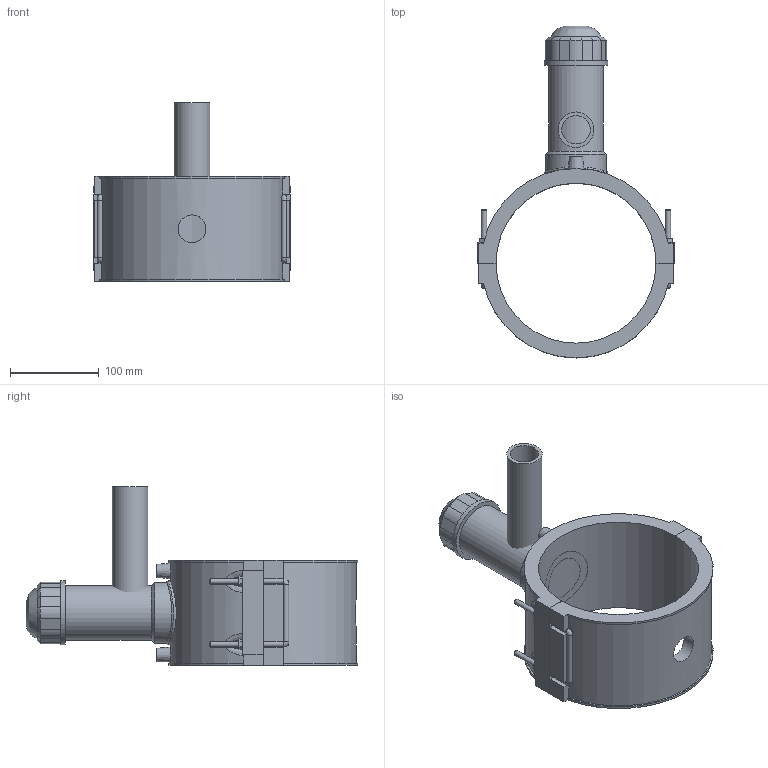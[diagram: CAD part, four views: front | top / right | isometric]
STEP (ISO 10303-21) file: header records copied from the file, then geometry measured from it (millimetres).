
FILE_DESCRIPTION(/* description */ (''),/* implementation_level */ '2;1');
FILE_NAME(/* name */ 'C:\Dropbox\KIMPROJECTS-Inventor 2019\99-16-3568-Processing\ElectroFusion Fittings\4963P4\stp\4963P4180040.stp',/* time_stamp */ '2022-03-17T11:31:02+02:00',/* author */ ('KIM'),/* organization */ (''),/* preprocessor_version */ 'ST-DEVELOPER v17.2',/* originating_system */ 'Autodesk Inventor 2019',/* authorisation */ '');
FILE_SCHEMA (('AUTOMOTIVE_DESIGN { 1 0 10303 214 3 1 1 }'));
Length unit declared in the file: millimetre
Products named in the file (1): 4963P4180040
Bounding box: 221 x 373.49 x 201 mm (x, y, z)
Volume: 1485718.8 mm3; surface area: 287792.7 mm2
Topology: 3 solids, 3 shells, 193 faces, 494 edges, 316 vertices
Faces by surface type: plane 111, cylinder 53, cone 15, bspline 14
Full cylindrical faces by diameter (mm): 4 x2, 6 x8, 10 x2, 31.36 x1, 32 x1, 40 x1, 50.4 x1, 61.2 x1, 68.4 x1, 72 x2
Entity records: 7018 total; most frequent: CARTESIAN_POINT 2359, ORIENTED_EDGE 972, DIRECTION 922, EDGE_CURVE 486, VERTEX_POINT 316, AXIS2_PLACEMENT_3D 313, LINE 296, VECTOR 296
